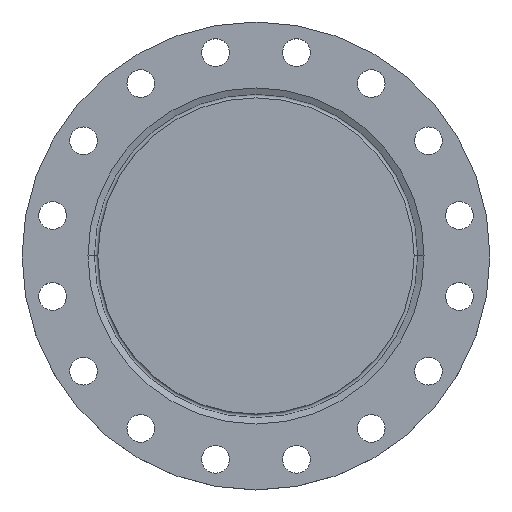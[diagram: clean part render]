
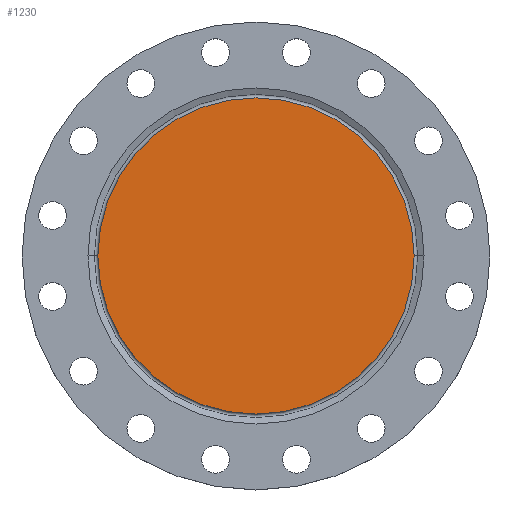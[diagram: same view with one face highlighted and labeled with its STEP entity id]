
A CAD part, top view. The second image highlights one B-rep face of the part: STEP entity #1230.
In plain terms, the highlighted planar face has unit normal (0, 0, 1).
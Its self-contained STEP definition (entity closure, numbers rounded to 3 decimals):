
#129 = DIRECTION ( 'NONE',  ( 1., 0., 0. ) ) ;
#130 = DIRECTION ( 'NONE',  ( 0., 0., 1. ) ) ;
#131 = CARTESIAN_POINT ( 'NONE',  ( 0., 0., 0. ) ) ;
#134 = PLANE ( 'NONE',  #1016 ) ;
#136 = FACE_OUTER_BOUND ( 'NONE', #914, .T. ) ;
#145 = DIRECTION ( 'NONE',  ( -1., 0., 0. ) ) ;
#147 = DIRECTION ( 'NONE',  ( 0., 0., -1. ) ) ;
#148 = CARTESIAN_POINT ( 'NONE',  ( 0., 0., 0. ) ) ;
#256 = CIRCLE ( 'NONE', #1498, 223. ) ;
#275 = EDGE_CURVE ( 'NONE', #729, #857, #256, .T. ) ;
#334 = CARTESIAN_POINT ( 'NONE',  ( -223., 0., 0. ) ) ;
#441 = CARTESIAN_POINT ( 'NONE',  ( 223., 0., 0. ) ) ;
#649 = DIRECTION ( 'NONE',  ( -1., 0., 0. ) ) ;
#650 = DIRECTION ( 'NONE',  ( 0., 0., -1. ) ) ;
#652 = CARTESIAN_POINT ( 'NONE',  ( 0., 0., 0. ) ) ;
#696 = CIRCLE ( 'NONE', #712, 223. ) ;
#712 = AXIS2_PLACEMENT_3D ( 'NONE', #148, #147, #145 ) ;
#729 = VERTEX_POINT ( 'NONE', #441 ) ;
#857 = VERTEX_POINT ( 'NONE', #334 ) ;
#914 = EDGE_LOOP ( 'NONE', ( #1179, #1181 ) ) ;
#1016 = AXIS2_PLACEMENT_3D ( 'NONE', #131, #130, #129 ) ;
#1179 = ORIENTED_EDGE ( 'NONE', *, *, #1216, .F. ) ;
#1181 = ORIENTED_EDGE ( 'NONE', *, *, #275, .F. ) ;
#1216 = EDGE_CURVE ( 'NONE', #857, #729, #696, .T. ) ;
#1230 = ADVANCED_FACE ( 'NONE', ( #136 ), #134, .T. ) ;
#1498 = AXIS2_PLACEMENT_3D ( 'NONE', #652, #650, #649 ) ;
